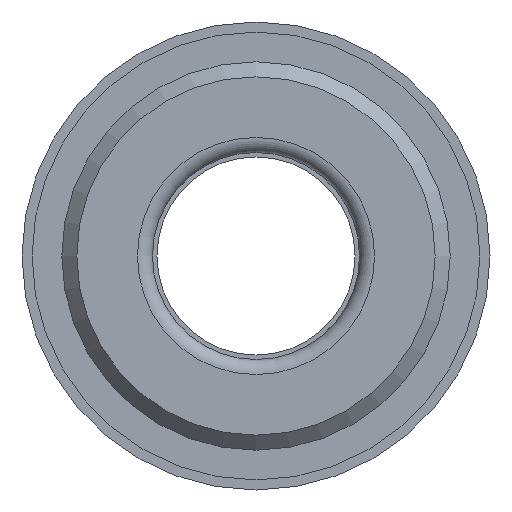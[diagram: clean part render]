
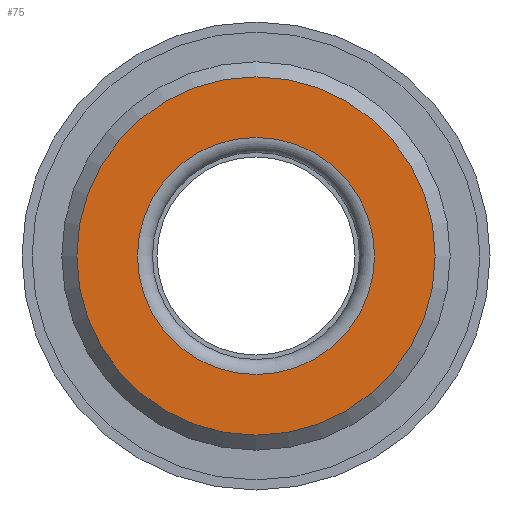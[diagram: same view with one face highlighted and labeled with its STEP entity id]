
A CAD part, left-side view. The second image highlights one B-rep face of the part: STEP entity #75.
In plain terms, the highlighted planar face has unit normal (-1, 0, 0).
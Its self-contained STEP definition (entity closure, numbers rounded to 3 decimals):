
#75 = ADVANCED_FACE( '', ( #112, #113 ), #114, .F. );
#112 = FACE_OUTER_BOUND( '', #202, .T. );
#113 = FACE_BOUND( '', #203, .T. );
#114 = PLANE( '', #204 );
#202 = EDGE_LOOP( '', ( #292 ) );
#203 = EDGE_LOOP( '', ( #293 ) );
#204 = AXIS2_PLACEMENT_3D( '', #294, #295, #296 );
#292 = ORIENTED_EDGE( '', *, *, #518, .F. );
#293 = ORIENTED_EDGE( '', *, *, #519, .F. );
#294 = CARTESIAN_POINT( '', ( -0.572, 0., 0. ) );
#295 = DIRECTION( '', ( 1., 0., 0. ) );
#296 = DIRECTION( '', ( 0., 0., -1. ) );
#518 = EDGE_CURVE( '', #577, #577, #578, .T. );
#519 = EDGE_CURVE( '', #579, #579, #580, .F. );
#577 = VERTEX_POINT( '', #677 );
#578 = CIRCLE( '', #678, 6.8 );
#579 = VERTEX_POINT( '', #679 );
#580 = CIRCLE( '', #680, 4.5 );
#677 = CARTESIAN_POINT( '', ( -0.572, 0., -6.8 ) );
#678 = AXIS2_PLACEMENT_3D( '', #863, #864, #865 );
#679 = CARTESIAN_POINT( '', ( -0.572, 0., -4.5 ) );
#680 = AXIS2_PLACEMENT_3D( '', #866, #867, #868 );
#863 = CARTESIAN_POINT( '', ( -0.572, 0., 0. ) );
#864 = DIRECTION( '', ( 1., 0., 0. ) );
#865 = DIRECTION( '', ( 0., 0., -1. ) );
#866 = CARTESIAN_POINT( '', ( -0.572, 0., 0. ) );
#867 = DIRECTION( '', ( 1., 0., 0. ) );
#868 = DIRECTION( '', ( 0., 0., -1. ) );
